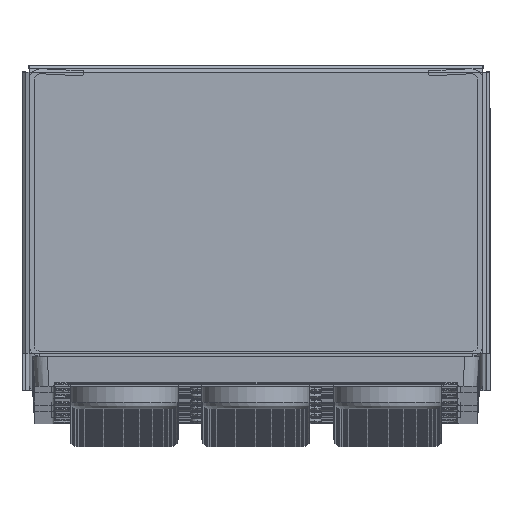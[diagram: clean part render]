
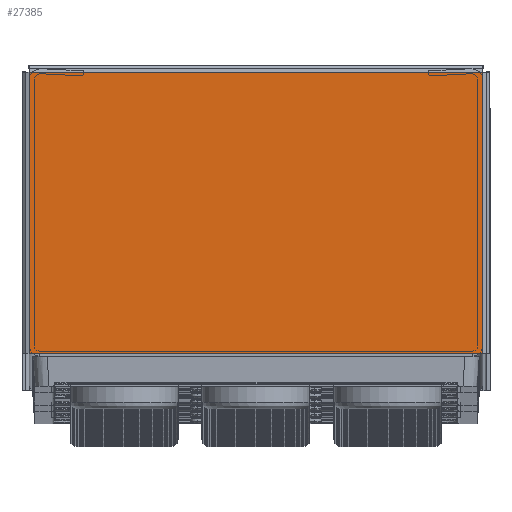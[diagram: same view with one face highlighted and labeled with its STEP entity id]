
A CAD part, top view. The second image highlights one B-rep face of the part: STEP entity #27385.
In plain terms, the highlighted planar face has unit normal (0, 0, 1).
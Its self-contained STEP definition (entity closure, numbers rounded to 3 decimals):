
#5073=FACE_OUTER_BOUND('',#7150,.T.);
#7150=EDGE_LOOP('',(#22861,#22862,#22863,#22864));
#9215=LINE('',#56281,#10414);
#9225=LINE('',#56314,#10424);
#9243=LINE('',#56357,#10442);
#9260=LINE('',#56395,#10459);
#10414=VECTOR('',#39136,10.);
#10424=VECTOR('',#39170,10.);
#10442=VECTOR('',#39216,10.);
#10459=VECTOR('',#39259,10.);
#12562=VERTEX_POINT('',#56278);
#12563=VERTEX_POINT('',#56280);
#12566=VERTEX_POINT('',#56312);
#12577=VERTEX_POINT('',#56356);
#16093=EDGE_CURVE('',#12563,#12562,#9215,.T.);
#16107=EDGE_CURVE('',#12562,#12566,#9225,.T.);
#16129=EDGE_CURVE('',#12577,#12563,#9243,.T.);
#16149=EDGE_CURVE('',#12577,#12566,#9260,.T.);
#22861=ORIENTED_EDGE('',*,*,#16093,.T.);
#22862=ORIENTED_EDGE('',*,*,#16107,.T.);
#22863=ORIENTED_EDGE('',*,*,#16149,.F.);
#22864=ORIENTED_EDGE('',*,*,#16129,.T.);
#25947=PLANE('',#30990);
#27385=ADVANCED_FACE('',(#5073),#25947,.T.);
#30990=AXIS2_PLACEMENT_3D('',#56401,#39263,#39264);
#39136=DIRECTION('',(-1.,0.,0.));
#39170=DIRECTION('',(0.,-1.,0.));
#39216=DIRECTION('',(0.,1.,0.));
#39259=DIRECTION('',(-1.,0.,0.));
#39263=DIRECTION('center_axis',(0.,0.,
1.));
#39264=DIRECTION('ref_axis',(1.,0.,0.));
#56278=CARTESIAN_POINT('',(-31.5,39.419,1500.5));
#56280=CARTESIAN_POINT('',(31.5,39.419,1500.5));
#56281=CARTESIAN_POINT('',(15.75,39.419,1500.5));
#56312=CARTESIAN_POINT('',(-31.5,0.419,1500.5));
#56314=CARTESIAN_POINT('',(-31.5,29.919,1500.5));
#56356=CARTESIAN_POINT('',(31.5,0.419,1500.5));
#56357=CARTESIAN_POINT('',(31.5,10.419,1500.5));
#56395=CARTESIAN_POINT('',(32.5,0.419,1500.5));
#56401=CARTESIAN_POINT('Origin',(0.,20.419,
1500.5));
